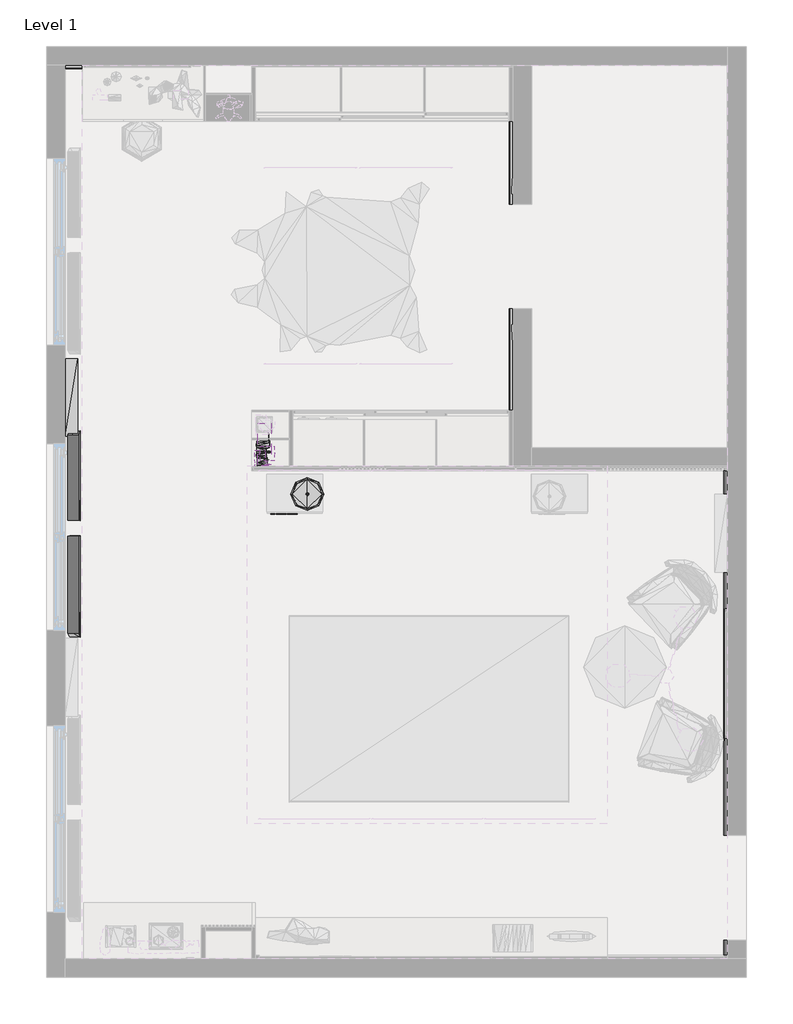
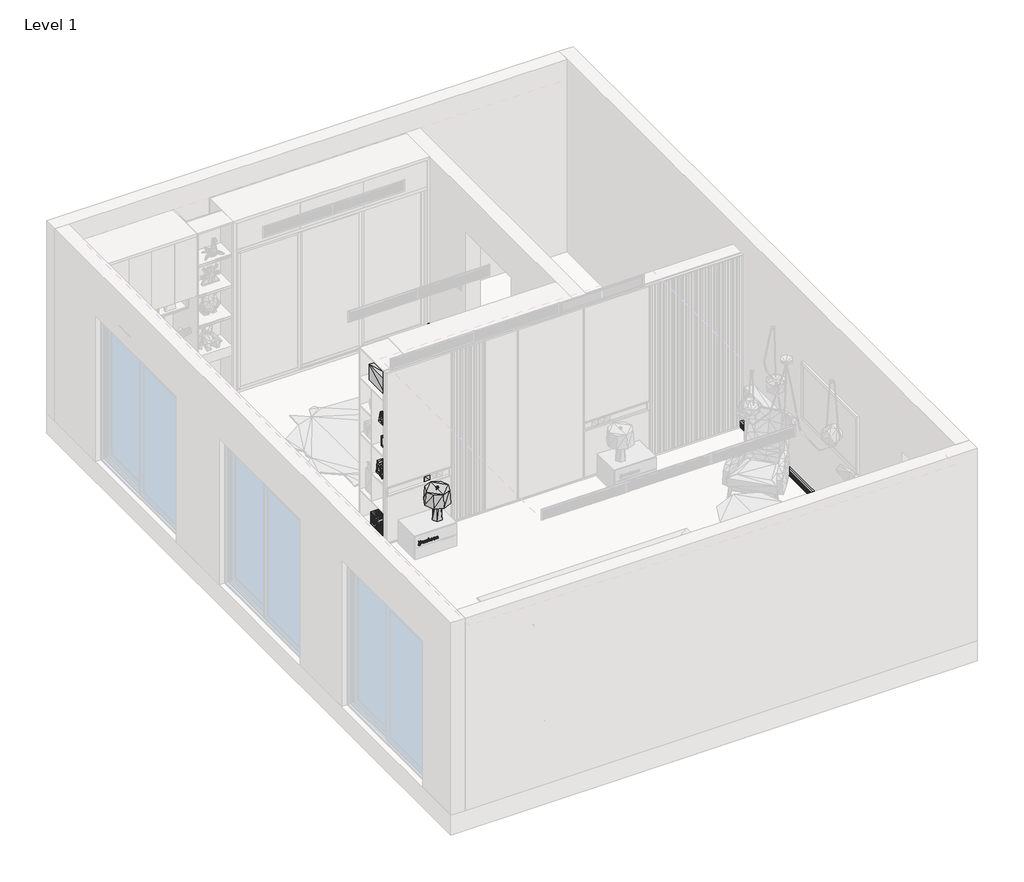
# One storey, part 2 of 3: 11 geographic elements, 2 proxies.
"""IFC4 building model written with IfcOpenShell, lengths in millimetres."""

from ifc_helpers import new_model, si_unit, frame, origin, place, context, project, spatial, polyline, circle_curve, ellipse_curve, outline, extrude, transform, mapped, element, save
from ifc_brep_helpers import plane_surface, cylinder_surface, revolved_surface, advanced_brep
from components import geographic_element_d3b9378c, enscape_assetdefinition_books_04_1_enscape_assetdefinition_30a1759c, enscape_assetdefinition_books_08_1_enscape_assetdefinition_19575203, enscape_assetdefinition_books_09_1_enscape_assetdefinition_7b06a2d0, enscape_assetdefinition_books_enscape_assetdefinition_books_90869a48, enscape_assetdefinition_curtain_09_1_enscape_assetdefinition_daeb34b5, enscape_assetdefinition_heater_1_enscape_assetdefinition_d009f5ff, enscape_assetdefinition_light_switch_02_1_enscape_37d4c2cf, enscape_assetdefinition_power_socket_1_enscape_57b8c8f3, enscape_assetdefinition_table_lamp_enscape_assetdefinition_93c3381e

model = new_model("IFC4")

# Units and contexts
model_context = context("Model", 3, world=origin())
ifc_project = project(units=[si_unit("LENGTHUNIT", "METRE", prefix="MILLI")], contexts=[model_context])

# Site, building, storey
site = spatial("IfcSite", under=ifc_project)
building = spatial("IfcBuilding", under=site)
storey = spatial("IfcBuildingStorey", under=building, Name="Level 1", Elevation=0.0)

# Proxies
placement = place(None, origin())
element("IfcBuildingElementProxy", 1, Name="600mm Arial", ObjectType="600mm Arial", at=placement, inside=storey, context=model_context, shape_type="SweptSolid", body=[
    extrude(outline(polyline([(223.461173, -2386.0412489), (256.5468074, -2386.0412489), (266.3688705, -2395.9534226), (261.5329312, -2402.4714277), (257.8684306, -2407.607736), (256.4717152, -2411.9931219), (261.3376914, -2414.4110916), (263.7706795, -2416.9041534), (265.0472473, -2419.4723075), (267.5703461, -2424.5935973), (262.9897203, -2420.02799), (260.7144259, -2418.8490421), (258.5592791, -2417.7602048), (245.2529367, -2417.9254077), (245.2529367, -2421.9803879), (242.594672, -2424.4884682), (236.4971833, -2424.4884682), (239.5459276, -2421.544853), (239.5459276, -2417.7602048), (221.7340518, -2417.7602048), (215.125936, -2427.7624892), (218.4299939, -2417.7602048), (199.3265318, -2417.7602048), (205.0335409, -2411.9931219), (253.7533766, -2411.9931219), (257.6731908, -2406.1509468), (207.5716581, -2405.0996556), (218.6252337, -2405.0996556), (218.6252337, -2401.0146386), (216.1922456, -2395.9834595), (221.1483324, -2390.8020959), (223.461173, -2386.0412489)]), holes=[polyline([(249.9837469, -2391.8083318), (247.8811646, -2396.1937177), (247.8811646, -2400.7142697), (249.9837469, -2405.0996556), (258.6644082, -2405.0996556), (260.7369536, -2402.2912064), (260.7369536, -2398.6717611), (254.0988009, -2391.8083318), (249.9837469, -2391.8083318)]), polyline([(236.7224599, -2391.8083318), (238.7349316, -2395.9233857), (238.7349316, -2400.9846017), (236.7224599, -2405.0996556), (249.3529722, -2405.0996556), (247.3855559, -2400.9846017), (247.3855559, -2395.9233857), (249.3529722, -2391.8083318), (236.7224599, -2391.8083318)]), polyline([(222.5150109, -2391.8083318), (223.6714312, -2395.3902309), (224.6626486, -2398.4464845), (224.6626486, -2405.2648585), (235.4158552, -2405.2648585), (237.5184375, -2400.8193988), (237.5184375, -2396.2537915), (235.4158552, -2391.8083318), (222.5150109, -2391.8083318)])]), frame((0.0, 1232.5768874, 0.0), z_axis=(0.0, 1.0, 0.0), x_axis=(0.0, 0.0, 1.0)), (0.0, 0.0, 1.0), 10.0),
    extrude(outline(polyline([(222.4399187, -2340.2950652), (222.4399187, -2343.7042522), (224.4373719, -2345.6716685), (242.459506, -2345.6716685), (244.9675863, -2343.1485698), (250.2690974, -2348.55521), (247.7309802, -2351.2435117), (246.4318847, -2353.7215551), (245.4181396, -2357.6864246), (247.7309802, -2362.1919581), (250.2690974, -2364.8502229), (244.9675863, -2370.2268262), (238.0591016, -2363.2582677), (235.6936965, -2365.6386912), (233.7488078, -2367.6286352), (231.2782736, -2368.8751662), (228.9729423, -2370.0315864), (224.0769292, -2370.0315864), (219.2259715, -2367.5685614), (216.6878542, -2362.3871979), (221.4487013, -2357.6263508), (223.5062283, -2351.4387514), (221.7340518, -2351.4387514), (216.6277805, -2346.1973141), (222.4399187, -2340.2950652)]), holes=[polyline([(224.5274826, -2351.4387514), (222.3347896, -2357.9417382), (222.3347896, -2360.0443205), (224.5274826, -2364.4597433), (228.8978501, -2366.6223994), (233.2081438, -2366.6223994), (237.3231977, -2362.5073454), (233.7938632, -2357.4911848), (242.1441186, -2365.9165325), (242.1441186, -2362.4472717), (243.1803913, -2359.2933982), (244.0965165, -2356.755281), (242.3093215, -2351.4387514), (224.5274826, -2351.4387514)])]), frame((0.0, 1232.5768874, 0.0), z_axis=(0.0, 1.0, 0.0), x_axis=(0.0, 0.0, 1.0)), (0.0, 0.0, 1.0), 10.0),
    extrude(outline(polyline([(245.4782134, -2298.0031239), (245.4782134, -2302.4335652), (247.4756666, -2306.3383609), (250.2690974, -2309.4321606), (247.7309802, -2312.0453701), (246.9199841, -2313.5321961), (245.4181396, -2316.4607929), (244.149081, -2319.9976367), (243.3606127, -2322.6033369), (245.1628261, -2322.6033369), (250.2690974, -2327.8447743), (244.4269223, -2333.7470232), (244.4269223, -2330.3528546), (242.459506, -2328.3704198), (224.5575194, -2328.3704198), (221.3886275, -2334.753259), (221.3886275, -2330.2927808), (219.3911744, -2326.2678375), (216.6277805, -2323.1289825), (222.1095129, -2317.542121), (224.6326117, -2322.6033369), (242.4745244, -2322.6033369), (244.6371805, -2316.29559), (244.6371805, -2314.2530815), (242.5345982, -2310.1079906), (221.7791071, -2310.1079906), (216.6277805, -2304.8965902), (222.4399187, -2298.9643044), (222.4399187, -2302.3734914), (224.4373719, -2304.3409077), (242.3393584, -2304.3409077), (245.4782134, -2298.0031239)])), frame((0.0, 1232.5768874, 0.0), z_axis=(0.0, 1.0, 0.0), x_axis=(0.0, 0.0, 1.0)), (0.0, 0.0, 1.0), 10.0),
    extrude(outline(polyline([(221.3435722, -2262.0489665), (245.2228998, -2262.0489665), (259.1600169, -2275.8959728), (266.6091656, -2278.3890347), (261.2475807, -2286.4088843), (249.7584703, -2274.9948661), (247.791054, -2278.8696249), (246.1840803, -2283.6454905), (245.4031212, -2286.0784786), (224.5274826, -2286.0784786), (221.3435722, -2292.4613177), (221.3435722, -2285.687999), (219.1058239, -2281.2725761), (216.6277805, -2278.8095512), (218.0470235, -2275.9410281), (219.1058239, -2273.8684827), (221.3435722, -2267.1101825), (221.3435722, -2262.0489665)]), holes=[polyline([(222.1996236, -2267.8160494), (220.0670044, -2273.943575), (222.2596974, -2276.0161204), (223.528756, -2278.4115624), (224.4674088, -2280.3113957), (244.7423096, -2280.3113957), (248.9775111, -2274.1237963), (242.5045613, -2267.8160494), (222.1996236, -2267.8160494)])]), frame((0.0, 1232.5768874, 0.0), z_axis=(0.0, 1.0, 0.0), x_axis=(0.0, 0.0, 1.0)), (0.0, 0.0, 1.0), 10.0),
    extrude(outline(polyline([(245.5232687, -2216.3027828), (245.5232687, -2223.0610831), (247.791054, -2227.4464691), (249.0450941, -2228.7155277), (250.2690974, -2229.9395309), (248.8198174, -2232.7930355), (247.791054, -2234.8505625), (245.5232687, -2241.6088627), (245.5232687, -2246.6700787), (224.5274826, -2246.6700787), (221.3435722, -2253.0529179), (221.3435722, -2246.2795992), (219.1058239, -2241.8641763), (216.6277805, -2239.4011513), (218.0470235, -2236.5326283), (219.1058239, -2234.4600829), (221.3435722, -2227.7017826), (221.3435722, -2222.6405666), (242.3693953, -2222.6405666), (245.5232687, -2216.3027828)]), holes=[polyline([(222.1996236, -2228.4076495), (220.0670044, -2234.5351751), (222.2596974, -2236.6077205), (223.528756, -2239.0031625), (224.4674088, -2240.9029958), (244.6071436, -2240.9029958), (244.5470698, -2232.7329617), (243.2780112, -2230.3375197), (242.3693953, -2228.4076495), (222.1996236, -2228.4076495)])]), frame((0.0, 1232.5768874, 0.0), z_axis=(0.0, 1.0, 0.0), x_axis=(0.0, 0.0, 1.0)), (0.0, 0.0, 1.0), 10.0),
    extrude(outline(polyline([(245.4782134, -2178.3061168), (245.4782134, -2182.7365581), (247.7309802, -2187.2120548), (248.9850203, -2188.4886226), (250.2090236, -2189.7051166), (245.6133794, -2199.0015341), (250.2690974, -2203.8524919), (244.4269223, -2209.7547408), (244.4269223, -2206.3605722), (242.459506, -2204.3781375), (224.5575194, -2204.3781375), (221.3886275, -2210.7609766), (221.3886275, -2206.3004984), (219.3911744, -2202.2755551), (216.6277805, -2199.1367001), (220.2922811, -2194.3007608), (222.4399187, -2189.9303933), (222.4399187, -2194.3608346), (224.5575194, -2198.6110546), (244.6071436, -2198.6110546), (246.6045968, -2194.6311666), (242.1140817, -2190.0655593), (242.1140817, -2185.0794356), (245.4782134, -2178.3061168)])), frame((0.0, 1232.5768874, 0.0), z_axis=(0.0, 1.0, 0.0), x_axis=(0.0, 0.0, 1.0)), (0.0, 0.0, 1.0), 10.0),
    extrude(outline(polyline([(222.4399187, -2144.2142466), (222.4399187, -2147.6234336), (224.4373719, -2149.5908499), (242.459506, -2149.5908499), (244.9675863, -2147.0677511), (250.2690974, -2152.4743913), (247.7309802, -2155.162693), (246.4318847, -2157.6407364), (245.4181396, -2161.6056059), (247.7309802, -2166.1111395), (250.2690974, -2168.7694042), (244.9675863, -2174.1460076), (238.0591016, -2167.1774491), (235.6936965, -2169.5578726), (233.7488078, -2171.5478166), (231.2782736, -2172.7943475), (228.9729423, -2173.9507678), (224.0769292, -2173.9507678), (219.2259715, -2171.4877428), (216.6878542, -2166.3063792), (221.4487013, -2161.5455322), (223.5062283, -2155.3579328), (221.7340518, -2155.3579328), (216.6277805, -2150.1164955), (222.4399187, -2144.2142466)]), holes=[polyline([(224.5274826, -2155.3579328), (222.3347896, -2161.8609195), (222.3347896, -2163.9635018), (224.5274826, -2168.3789247), (228.8978501, -2170.5415807), (233.2081438, -2170.5415807), (237.3231977, -2166.4265268), (233.7938632, -2161.4103661), (242.1441186, -2169.8357138), (242.1441186, -2166.366453), (243.1803913, -2163.2125796), (244.0965165, -2160.6744623), (242.3093215, -2155.3579328), (224.5274826, -2155.3579328)])]), frame((0.0, 1232.5768874, 0.0), z_axis=(0.0, 1.0, 0.0), x_axis=(0.0, 0.0, 1.0)), (0.0, 0.0, 1.0), 10.0),
])
element("IfcBuildingElementProxy", 2, Name="Cornice", ObjectType="Cornice", at=placement, inside=storey, context=model_context, shape_type="AdvancedBrep", body=[
    advanced_brep(
    [(2427.42874, 1698.5768874, 0.0), (2427.42874, 1698.5768874, 17.0568604), (2427.42874, 1698.5768874, 27.0568604), (2427.42874, 1698.5768874, 40.0), (2427.42874, 1698.5768874, 50.0), (2427.42874, 1698.5768874, 62.6870519), (2427.42874, 1698.5768874, 72.6870519), (2427.42874, 1698.5768874, 90.0), (2437.42874, 1698.5768874, 100.0), (2467.42874, 1698.5768874, 100.0), (2467.42874, 1698.5768874, 0.0), (2427.42874, -2213.4231126, 0.0), (2467.42874, -2213.4231126, 0.0), (2467.42874, -2213.4231126, 100.0), (2437.42874, -2213.4231126, 100.0), (2427.42874, -2213.4231126, 90.0), (2427.42874, -2213.4231126, 72.6870519), (2427.42874, -2213.4231126, 62.6870519), (2427.42874, -2213.4231126, 50.0), (2427.42874, -2213.4231126, 40.0), (2427.42874, -2213.4231126, 27.0568604), (2427.42874, -2213.4231126, 17.0568604)],
    [
        (0, 1),
        (1, 2, circle_curve(frame((2427.42874, 1698.5768874, 22.0568604), z_axis=(0.0, -1.0, 0.0), x_axis=(1.0, 0.0, 0.0)), 5.0)),
        (2, 3),
        (3, 4, circle_curve(frame((2427.42874, 1698.5768874, 45.0), z_axis=(0.0, -1.0, 0.0), x_axis=(1.0, 0.0, 0.0)), 5.0)),
        (4, 5),
        (5, 6, circle_curve(frame((2427.42874, 1698.5768874, 67.6870519), z_axis=(0.0, -1.0, 0.0), x_axis=(1.0, 0.0, 0.0)), 5.0)),
        (6, 7),
        (7, 8, circle_curve(frame((2437.42874, 1698.5768874, 90.0), z_axis=(0.0, 1.0, 0.0), x_axis=(1.0, 0.0, 0.0)), 10.0)),
        (8, 9),
        (9, 10),
        (10, 0),
        (11, 12),
        (12, 13),
        (13, 14),
        (14, 15, circle_curve(frame((2437.42874, -2213.4231126, 90.0), z_axis=(0.0, -1.0, 0.0), x_axis=(1.0, 0.0, 0.0)), 10.0)),
        (15, 16),
        (16, 17, circle_curve(frame((2427.42874, -2213.4231126, 67.6870519), z_axis=(0.0, 1.0, 0.0), x_axis=(1.0, 0.0, 0.0)), 5.0)),
        (17, 18),
        (18, 19, circle_curve(frame((2427.42874, -2213.4231126, 45.0), z_axis=(0.0, 1.0, 0.0), x_axis=(1.0, 0.0, 0.0)), 5.0)),
        (19, 20),
        (20, 21, circle_curve(frame((2427.42874, -2213.4231126, 22.0568604), z_axis=(0.0, 1.0, 0.0), x_axis=(1.0, 0.0, 0.0)), 5.0)),
        (21, 11),
        (0, 11),
        (21, 1),
        (20, 2),
        (19, 3),
        (18, 4),
        (17, 5),
        (16, 6),
        (15, 7),
        (14, 8),
        (13, 9),
        (12, 10),
    ],
    [
        plane_surface(frame((2363.0256749, 1698.5768874, 0.0), z_axis=(0.0, 1.0, 0.0), x_axis=(0.0, 0.0, -1.0))),
        plane_surface(frame((2363.0256749, -2213.4231126, 0.0), z_axis=(0.0, -1.0, 0.0), x_axis=(0.0, 0.0, -1.0))),
        plane_surface(frame((2427.42874, 1698.5768874, 0.0), z_axis=(-1.0, 0.0, 0.0), x_axis=(0.0, -1.0, 0.0))),
        revolved_surface(polyline([(2432.42874, -2213.4231126, 22.0568604), (2432.42874, 1698.5768874, 22.0568604)]), (2427.42874, 1698.5768874, 22.0568604), (0.0, -1.0, 0.0)),
        plane_surface(frame((2427.42874, 1698.5768874, 27.0568604), z_axis=(-1.0, 0.0, 0.0), x_axis=(0.0, -1.0, 0.0))),
        revolved_surface(polyline([(2432.42874, -2213.4231126, 45.0), (2432.42874, 1698.5768874, 45.0)]), (2427.42874, 1698.5768874, 45.0), (0.0, -1.0, 0.0)),
        plane_surface(frame((2427.42874, 1698.5768874, 50.0), z_axis=(-1.0, 0.0, 0.0), x_axis=(0.0, -1.0, 0.0))),
        revolved_surface(polyline([(2432.42874, -2213.4231126, 67.6870519), (2432.42874, 1698.5768874, 67.6870519)]), (2427.42874, 1698.5768874, 67.6870519), (0.0, -1.0, 0.0)),
        plane_surface(frame((2427.42874, 1698.5768874, 72.6870519), z_axis=(-1.0, 0.0, 0.0), x_axis=(0.0, -1.0, 0.0))),
        cylinder_surface(frame((2437.42874, 1698.5768874, 90.0), z_axis=(0.0, 1.0, 0.0), x_axis=(1.0, 0.0, 0.0)), 10.0),
        plane_surface(frame((2437.42874, 1698.5768874, 100.0), z_axis=(0.0, 0.0, 1.0), x_axis=(0.0, -1.0, 0.0))),
        plane_surface(frame((2467.42874, 1698.5768874, 100.0), z_axis=(1.0, 0.0, 0.0), x_axis=(0.0, -1.0, 0.0))),
        plane_surface(frame((2467.42874, 1698.5768874, 0.0), z_axis=(0.0, 0.0, -1.0), x_axis=(0.0, -1.0, 0.0))),
    ],
    [
        (0, [[1, 2, 3, 4, 5, 6, 7, 8, 9, 10, 11]]),
        (1, [[12, 13, 14, 15, 16, 17, 18, 19, 20, 21, 22]]),
        (2, [[-1, 23, -22, 24]]),
        (3, [[-2, -24, -21, 25]]),
        (4, [[-3, -25, -20, 26]]),
        (5, [[-4, -26, -19, 27]]),
        (6, [[-5, -27, -18, 28]]),
        (7, [[-6, -28, -17, 29]]),
        (8, [[-7, -29, -16, 30]]),
        (9, [[-8, -30, -15, 31]]),
        (10, [[-9, -31, -14, 32]]),
        (11, [[-10, -32, -13, 33]]),
        (12, [[-11, -33, -12, -23]]),
    ],
),
    advanced_brep(
    [(2427.42874, -3495.4231126, 0.0), (2427.42874, -3495.4231126, 17.0568604), (2427.42874, -3495.4231126, 27.0568604), (2427.42874, -3495.4231126, 40.0), (2427.42874, -3495.4231126, 50.0), (2427.42874, -3495.4231126, 62.6870519), (2427.42874, -3495.4231126, 72.6870519), (2427.42874, -3495.4231126, 90.0), (2437.42874, -3505.4231126, 100.0), (2467.42874, -3535.4231126, 100.0), (2467.42874, -3535.4231126, 0.0), (-2592.57126, -3495.4231126, 0.0), (-2592.57126, -3535.4231126, 0.0), (-2592.57126, -3535.4231126, 100.0), (-2592.57126, -3505.4231126, 100.0), (-2592.57126, -3495.4231126, 90.0), (-2592.57126, -3495.4231126, 72.6870519), (-2592.57126, -3495.4231126, 62.6870519), (-2592.57126, -3495.4231126, 50.0), (-2592.57126, -3495.4231126, 40.0), (-2592.57126, -3495.4231126, 27.0568604), (-2592.57126, -3495.4231126, 17.0568604)],
    [
        (0, 1),
        (1, 2, ellipse_curve(frame((2427.42874, -3495.4231126, 22.0568604), z_axis=(-0.7071067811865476, -0.7071067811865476, 0.0), x_axis=(-0.7071067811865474, 0.7071067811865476, 0.0)), 7.0710678, 5.0)),
        (2, 3),
        (3, 4, ellipse_curve(frame((2427.42874, -3495.4231126, 45.0), z_axis=(-0.7071067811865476, -0.7071067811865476, 0.0), x_axis=(-0.7071067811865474, 0.7071067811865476, 0.0)), 7.0710678, 5.0)),
        (4, 5),
        (5, 6, ellipse_curve(frame((2427.42874, -3495.4231126, 67.6870519), z_axis=(-0.7071067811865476, -0.7071067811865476, 0.0), x_axis=(-0.7071067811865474, 0.7071067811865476, 0.0)), 7.0710678, 5.0)),
        (6, 7),
        (7, 8, ellipse_curve(frame((2437.42874, -3505.4231126, 90.0), z_axis=(0.7071067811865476, 0.7071067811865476, 0.0), x_axis=(0.7071067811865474, -0.7071067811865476, 0.0)), 14.1421356, 10.0)),
        (8, 9),
        (9, 10),
        (10, 0),
        (11, 12),
        (12, 13),
        (13, 14),
        (14, 15, circle_curve(frame((-2592.57126, -3505.4231126, 90.0), z_axis=(-1.0, 0.0, 0.0), x_axis=(0.0, -1.0, 0.0)), 10.0)),
        (15, 16),
        (16, 17, circle_curve(frame((-2592.57126, -3495.4231126, 67.6870519), z_axis=(1.0, 0.0, 0.0), x_axis=(0.0, -1.0, 0.0)), 5.0)),
        (17, 18),
        (18, 19, circle_curve(frame((-2592.57126, -3495.4231126, 45.0), z_axis=(1.0, 0.0, 0.0), x_axis=(0.0, -1.0, 0.0)), 5.0)),
        (19, 20),
        (20, 21, circle_curve(frame((-2592.57126, -3495.4231126, 22.0568604), z_axis=(1.0, 0.0, 0.0), x_axis=(0.0, -1.0, 0.0)), 5.0)),
        (21, 11),
        (0, 11),
        (21, 1),
        (20, 2),
        (19, 3),
        (18, 4),
        (17, 5),
        (16, 6),
        (15, 7),
        (14, 8),
        (13, 9),
        (12, 10),
    ],
    [
        plane_surface(frame((2467.42874, -3535.4231126, 304.8), z_axis=(0.7071067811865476, 0.7071067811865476, 0.0), x_axis=(-0.7071067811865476, 0.7071067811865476, 0.0))),
        plane_surface(frame((-2592.57126, -3535.4231126, -104.4030651), z_axis=(-1.0, 0.0, 0.0), x_axis=(0.0, -1.0, 0.0))),
        plane_surface(frame((2427.42874, -3495.4231126, 0.0), z_axis=(0.0, 1.0, 0.0), x_axis=(-1.0, 0.0, 0.0))),
        revolved_surface(polyline([(-2592.57126, -3500.4231126, 22.0568604), (2432.4287399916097, -3500.4231126, 22.0568604)]), (2467.42874, -3495.4231126, 22.0568604), (-1.0, 0.0, 0.0)),
        plane_surface(frame((2427.42874, -3495.4231126, 27.0568604), z_axis=(0.0, 1.0, 0.0), x_axis=(-1.0, 0.0, 0.0))),
        revolved_surface(polyline([(-2592.57126, -3500.4231126, 45.0), (2432.4287399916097, -3500.4231126, 45.0)]), (2467.42874, -3495.4231126, 45.0), (-1.0, 0.0, 0.0)),
        plane_surface(frame((2427.42874, -3495.4231126, 50.0), z_axis=(0.0, 1.0, 0.0), x_axis=(-1.0, 0.0, 0.0))),
        revolved_surface(polyline([(-2592.57126, -3500.4231126, 67.6870519), (2432.4287399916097, -3500.4231126, 67.6870519)]), (2467.42874, -3495.4231126, 67.6870519), (-1.0, 0.0, 0.0)),
        plane_surface(frame((2427.42874, -3495.4231126, 72.6870519), z_axis=(0.0, 1.0, 0.0), x_axis=(-1.0, 0.0, 0.0))),
        cylinder_surface(frame((2467.42874, -3505.4231126, 90.0), z_axis=(1.0, 0.0, 0.0), x_axis=(0.0, -1.0, 0.0)), 10.0),
        plane_surface(frame((2437.42874, -3505.4231126, 100.0), z_axis=(0.0, 0.0, 1.0), x_axis=(-1.0, 0.0, 0.0))),
        plane_surface(frame((2467.42874, -3535.4231126, 100.0), z_axis=(0.0, -1.0, 0.0), x_axis=(-1.0, 0.0, 0.0))),
        plane_surface(frame((2467.42874, -3535.4231126, 0.0), z_axis=(0.0, 0.0, -1.0), x_axis=(-1.0, 0.0, 0.0))),
    ],
    [
        (0, [[1, 2, 3, 4, 5, 6, 7, 8, 9, 10, 11]]),
        (1, [[12, 13, 14, 15, 16, 17, 18, 19, 20, 21, 22]]),
        (2, [[-1, 23, -22, 24]]),
        (3, [[-2, -24, -21, 25]]),
        (4, [[-3, -25, -20, 26]]),
        (5, [[-4, -26, -19, 27]]),
        (6, [[-5, -27, -18, 28]]),
        (7, [[-6, -28, -17, 29]]),
        (8, [[-7, -29, -16, 30]]),
        (9, [[-8, -30, -15, 31]]),
        (10, [[-9, -31, -14, 32]]),
        (11, [[-10, -32, -13, 33]]),
        (12, [[-11, -33, -12, -23]]),
    ],
),
    advanced_brep(
    [(-4632.57126, 6004.5768874, 0.0), (-4632.57126, 6004.5768874, 17.0568604), (-4632.57126, 6004.5768874, 27.0568604), (-4632.57126, 6004.5768874, 40.0), (-4632.57126, 6004.5768874, 50.0), (-4632.57126, 6004.5768874, 62.6870519), (-4632.57126, 6004.5768874, 72.6870519), (-4632.57126, 6004.5768874, 90.0), (-4632.57126, 6014.5768874, 100.0), (-4632.57126, 6044.5768874, 100.0), (-4632.57126, 6044.5768874, 0.0), (-3148.57126, 6004.5768874, 0.0), (-3148.57126, 6044.5768874, 0.0), (-3148.57126, 6044.5768874, 100.0), (-3148.57126, 6014.5768874, 100.0), (-3148.57126, 6004.5768874, 90.0), (-3148.57126, 6004.5768874, 72.6870519), (-3148.57126, 6004.5768874, 62.6870519), (-3148.57126, 6004.5768874, 50.0), (-3148.57126, 6004.5768874, 40.0), (-3148.57126, 6004.5768874, 27.0568604), (-3148.57126, 6004.5768874, 17.0568604)],
    [
        (0, 1),
        (1, 2, circle_curve(frame((-4632.57126, 6004.5768874, 22.0568604), z_axis=(1.0, 0.0, 0.0), x_axis=(0.0, 1.0, 0.0)), 5.0)),
        (2, 3),
        (3, 4, circle_curve(frame((-4632.57126, 6004.5768874, 45.0), z_axis=(1.0, 0.0, 0.0), x_axis=(0.0, 1.0, 0.0)), 5.0)),
        (4, 5),
        (5, 6, circle_curve(frame((-4632.57126, 6004.5768874, 67.6870519), z_axis=(1.0, 0.0, 0.0), x_axis=(0.0, 1.0, 0.0)), 5.0)),
        (6, 7),
        (7, 8, circle_curve(frame((-4632.57126, 6014.5768874, 90.0), z_axis=(-1.0, 0.0, 0.0), x_axis=(0.0, 1.0, 0.0)), 10.0)),
        (8, 9),
        (9, 10),
        (10, 0),
        (11, 12),
        (12, 13),
        (13, 14),
        (14, 15, circle_curve(frame((-3148.57126, 6014.5768874, 90.0), z_axis=(1.0, 0.0, 0.0), x_axis=(0.0, 1.0, 0.0)), 10.0)),
        (15, 16),
        (16, 17, circle_curve(frame((-3148.57126, 6004.5768874, 67.6870519), z_axis=(-1.0, 0.0, 0.0), x_axis=(0.0, 1.0, 0.0)), 5.0)),
        (17, 18),
        (18, 19, circle_curve(frame((-3148.57126, 6004.5768874, 45.0), z_axis=(-1.0, 0.0, 0.0), x_axis=(0.0, 1.0, 0.0)), 5.0)),
        (19, 20),
        (20, 21, circle_curve(frame((-3148.57126, 6004.5768874, 22.0568604), z_axis=(-1.0, 0.0, 0.0), x_axis=(0.0, 1.0, 0.0)), 5.0)),
        (21, 11),
        (0, 11),
        (21, 1),
        (20, 2),
        (19, 3),
        (18, 4),
        (17, 5),
        (16, 6),
        (15, 7),
        (14, 8),
        (13, 9),
        (12, 10),
    ],
    [
        plane_surface(frame((-4632.57126, 6044.5768874, -104.4030651), z_axis=(-1.0, 0.0, 0.0), x_axis=(0.0, 1.0, 0.0))),
        plane_surface(frame((-3148.57126, 6044.5768874, -104.4030651), z_axis=(1.0, 0.0, 0.0), x_axis=(0.0, 1.0, 0.0))),
        plane_surface(frame((-4632.57126, 6004.5768874, 0.0), z_axis=(0.0, -1.0, 0.0), x_axis=(1.0, 0.0, 0.0))),
        revolved_surface(polyline([(-3148.57126, 6009.5768874, 22.0568604), (-4632.57126, 6009.5768874, 22.0568604)]), (-4632.57126, 6004.5768874, 22.0568604), (1.0, 0.0, 0.0)),
        plane_surface(frame((-4632.57126, 6004.5768874, 27.0568604), z_axis=(0.0, -1.0, 0.0), x_axis=(1.0, 0.0, 0.0))),
        revolved_surface(polyline([(-3148.57126, 6009.5768874, 45.0), (-4632.57126, 6009.5768874, 45.0)]), (-4632.57126, 6004.5768874, 45.0), (1.0, 0.0, 0.0)),
        plane_surface(frame((-4632.57126, 6004.5768874, 50.0), z_axis=(0.0, -1.0, 0.0), x_axis=(1.0, 0.0, 0.0))),
        revolved_surface(polyline([(-3148.57126, 6009.5768874, 67.6870519), (-4632.57126, 6009.5768874, 67.6870519)]), (-4632.57126, 6004.5768874, 67.6870519), (1.0, 0.0, 0.0)),
        plane_surface(frame((-4632.57126, 6004.5768874, 72.6870519), z_axis=(0.0, -1.0, 0.0), x_axis=(1.0, 0.0, 0.0))),
        cylinder_surface(frame((-4632.57126, 6014.5768874, 90.0), z_axis=(-1.0, 0.0, 0.0), x_axis=(0.0, 1.0, 0.0)), 10.0),
        plane_surface(frame((-4632.57126, 6014.5768874, 100.0), z_axis=(0.0, 0.0, 1.0), x_axis=(1.0, 0.0, 0.0))),
        plane_surface(frame((-4632.57126, 6044.5768874, 100.0), z_axis=(0.0, 1.0, 0.0), x_axis=(1.0, 0.0, 0.0))),
        plane_surface(frame((-4632.57126, 6044.5768874, 0.0), z_axis=(0.0, 0.0, -1.0), x_axis=(1.0, 0.0, 0.0))),
    ],
    [
        (0, [[1, 2, 3, 4, 5, 6, 7, 8, 9, 10, 11]]),
        (1, [[12, 13, 14, 15, 16, 17, 18, 19, 20, 21, 22]]),
        (2, [[-1, 23, -22, 24]]),
        (3, [[-2, -24, -21, 25]]),
        (4, [[-3, -25, -20, 26]]),
        (5, [[-4, -26, -19, 27]]),
        (6, [[-5, -27, -18, 28]]),
        (7, [[-6, -28, -17, 29]]),
        (8, [[-7, -29, -16, 30]]),
        (9, [[-8, -30, -15, 31]]),
        (10, [[-9, -31, -14, 32]]),
        (11, [[-10, -32, -13, 33]]),
        (12, [[-11, -33, -12, -23]]),
    ],
),
    advanced_brep(
    [(127.42874, 4555.5768874, 0.0), (167.42874, 4555.5768874, 0.0), (167.42874, 4555.5768874, 100.0), (137.42874, 4555.5768874, 100.0), (127.42874, 4555.5768874, 90.0), (127.42874, 4555.5768874, 72.6870519), (127.42874, 4555.5768874, 62.6870519), (127.42874, 4555.5768874, 50.0), (127.42874, 4555.5768874, 40.0), (127.42874, 4555.5768874, 27.0568604), (127.42874, 4555.5768874, 17.0568604), (127.42874, 5444.5768874, 0.0), (127.42874, 5444.5768874, 17.0568604), (127.42874, 5444.5768874, 27.0568604), (127.42874, 5444.5768874, 40.0), (127.42874, 5444.5768874, 50.0), (127.42874, 5444.5768874, 62.6870519), (127.42874, 5444.5768874, 72.6870519), (127.42874, 5444.5768874, 90.0), (137.42874, 5444.5768874, 100.0), (167.42874, 5444.5768874, 100.0), (167.42874, 5444.5768874, 0.0)],
    [
        (0, 1),
        (1, 2),
        (2, 3),
        (3, 4, circle_curve(frame((137.42874, 4555.5768874, 90.0), z_axis=(0.0, -1.0, 0.0), x_axis=(1.0, 0.0, 0.0)), 10.0)),
        (4, 5),
        (5, 6, circle_curve(frame((127.42874, 4555.5768874, 67.6870519), z_axis=(0.0, 1.0, 0.0), x_axis=(1.0, 0.0, 0.0)), 5.0)),
        (6, 7),
        (7, 8, circle_curve(frame((127.42874, 4555.5768874, 45.0), z_axis=(0.0, 1.0, 0.0), x_axis=(1.0, 0.0, 0.0)), 5.0)),
        (8, 9),
        (9, 10, circle_curve(frame((127.42874, 4555.5768874, 22.0568604), z_axis=(0.0, 1.0, 0.0), x_axis=(1.0, 0.0, 0.0)), 5.0)),
        (10, 0),
        (11, 12),
        (12, 13, circle_curve(frame((127.42874, 5444.5768874, 22.0568604), z_axis=(0.0, -1.0, 0.0), x_axis=(1.0, 0.0, 0.0)), 5.0)),
        (13, 14),
        (14, 15, circle_curve(frame((127.42874, 5444.5768874, 45.0), z_axis=(0.0, -1.0, 0.0), x_axis=(1.0, 0.0, 0.0)), 5.0)),
        (15, 16),
        (16, 17, circle_curve(frame((127.42874, 5444.5768874, 67.6870519), z_axis=(0.0, -1.0, 0.0), x_axis=(1.0, 0.0, 0.0)), 5.0)),
        (17, 18),
        (18, 19, circle_curve(frame((137.42874, 5444.5768874, 90.0), z_axis=(0.0, 1.0, 0.0), x_axis=(1.0, 0.0, 0.0)), 10.0)),
        (19, 20),
        (20, 21),
        (21, 11),
        (0, 11),
        (21, 1),
        (20, 2),
        (19, 3),
        (18, 4),
        (17, 5),
        (16, 6),
        (15, 7),
        (14, 8),
        (13, 9),
        (12, 10),
    ],
    [
        plane_surface(frame((63.0256749, 4555.5768874, 0.0), z_axis=(0.0, -1.0, 0.0), x_axis=(0.0, 0.0, 1.0))),
        plane_surface(frame((63.0256749, 5444.5768874, 0.0), z_axis=(0.0, 1.0, 0.0), x_axis=(0.0, 0.0, 1.0))),
        plane_surface(frame((127.42874, 4555.5768874, 0.0), z_axis=(0.0, 0.0, -1.0), x_axis=(0.0, 1.0, 0.0))),
        plane_surface(frame((167.42874, 4555.5768874, 0.0), z_axis=(1.0, 0.0, 0.0), x_axis=(0.0, 1.0, 0.0))),
        plane_surface(frame((167.42874, 4555.5768874, 100.0), z_axis=(0.0, 0.0, 1.0), x_axis=(0.0, 1.0, 0.0))),
        cylinder_surface(frame((137.42874, 4555.5768874, 90.0), z_axis=(0.0, -1.0, 0.0), x_axis=(1.0, 0.0, 0.0)), 10.0),
        plane_surface(frame((127.42874, 4555.5768874, 90.0), z_axis=(-1.0, 0.0, 0.0), x_axis=(0.0, 1.0, 0.0))),
        revolved_surface(polyline([(132.42874, 5444.5768874, 67.6870519), (132.42874, 4555.5768874, 67.6870519)]), (127.42874, 4555.5768874, 67.6870519), (0.0, 1.0, 0.0)),
        plane_surface(frame((127.42874, 4555.5768874, 62.6870519), z_axis=(-1.0, 0.0, 0.0), x_axis=(0.0, 1.0, 0.0))),
        revolved_surface(polyline([(132.42874, 5444.5768874, 45.0), (132.42874, 4555.5768874, 45.0)]), (127.42874, 4555.5768874, 45.0), (0.0, 1.0, 0.0)),
        plane_surface(frame((127.42874, 4555.5768874, 40.0), z_axis=(-1.0, 0.0, 0.0), x_axis=(0.0, 1.0, 0.0))),
        revolved_surface(polyline([(132.42874, 5444.5768874, 22.0568604), (132.42874, 4555.5768874, 22.0568604)]), (127.42874, 4555.5768874, 22.0568604), (0.0, 1.0, 0.0)),
        plane_surface(frame((127.42874, 4555.5768874, 17.0568604), z_axis=(-1.0, 0.0, 0.0), x_axis=(0.0, 1.0, 0.0))),
    ],
    [
        (0, [[1, 2, 3, 4, 5, 6, 7, 8, 9, 10, 11]]),
        (1, [[12, 13, 14, 15, 16, 17, 18, 19, 20, 21, 22]]),
        (2, [[-1, 23, -22, 24]]),
        (3, [[-2, -24, -21, 25]]),
        (4, [[-3, -25, -20, 26]]),
        (5, [[-4, -26, -19, 27]]),
        (6, [[-5, -27, -18, 28]]),
        (7, [[-6, -28, -17, 29]]),
        (8, [[-7, -29, -16, 30]]),
        (9, [[-8, -30, -15, 31]]),
        (10, [[-9, -31, -14, 32]]),
        (11, [[-10, -32, -13, 33]]),
        (12, [[-11, -33, -12, -23]]),
    ],
),
    advanced_brep(
    [(2427.42874, -3335.4231126, 0.0), (2427.42874, -3335.4231126, 17.0568604), (2427.42874, -3335.4231126, 27.0568604), (2427.42874, -3335.4231126, 40.0), (2427.42874, -3335.4231126, 50.0), (2427.42874, -3335.4231126, 62.6870519), (2427.42874, -3335.4231126, 72.6870519), (2427.42874, -3335.4231126, 90.0), (2437.42874, -3335.4231126, 100.0), (2467.42874, -3335.4231126, 100.0), (2467.42874, -3335.4231126, 0.0), (2427.42874, -3495.4231126, 0.0), (2467.42874, -3535.4231126, 0.0), (2467.42874, -3535.4231126, 100.0), (2437.42874, -3505.4231126, 100.0), (2427.42874, -3495.4231126, 90.0), (2427.42874, -3495.4231126, 72.6870519), (2427.42874, -3495.4231126, 62.6870519), (2427.42874, -3495.4231126, 50.0), (2427.42874, -3495.4231126, 40.0), (2427.42874, -3495.4231126, 27.0568604), (2427.42874, -3495.4231126, 17.0568604)],
    [
        (0, 1),
        (1, 2, circle_curve(frame((2427.42874, -3335.4231126, 22.0568604), z_axis=(0.0, -1.0, 0.0), x_axis=(1.0, 0.0, 0.0)), 5.0)),
        (2, 3),
        (3, 4, circle_curve(frame((2427.42874, -3335.4231126, 45.0), z_axis=(0.0, -1.0, 0.0), x_axis=(1.0, 0.0, 0.0)), 5.0)),
        (4, 5),
        (5, 6, circle_curve(frame((2427.42874, -3335.4231126, 67.6870519), z_axis=(0.0, -1.0, 0.0), x_axis=(1.0, 0.0, 0.0)), 5.0)),
        (6, 7),
        (7, 8, circle_curve(frame((2437.42874, -3335.4231126, 90.0), z_axis=(0.0, 1.0, 0.0), x_axis=(1.0, 0.0, 0.0)), 10.0)),
        (8, 9),
        (9, 10),
        (10, 0),
        (11, 12),
        (12, 13),
        (13, 14),
        (14, 15, ellipse_curve(frame((2437.42874, -3505.4231126, 90.0), z_axis=(-0.7071067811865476, -0.7071067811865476, 0.0), x_axis=(-0.7071067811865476, 0.7071067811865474, 0.0)), 14.1421356, 10.0)),
        (15, 16),
        (16, 17, ellipse_curve(frame((2427.42874, -3495.4231126, 67.6870519), z_axis=(0.7071067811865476, 0.7071067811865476, 0.0), x_axis=(0.7071067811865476, -0.7071067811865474, 0.0)), 7.0710678, 5.0)),
        (17, 18),
        (18, 19, ellipse_curve(frame((2427.42874, -3495.4231126, 45.0), z_axis=(0.7071067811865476, 0.7071067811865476, 0.0), x_axis=(0.7071067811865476, -0.7071067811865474, 0.0)), 7.0710678, 5.0)),
        (19, 20),
        (20, 21, ellipse_curve(frame((2427.42874, -3495.4231126, 22.0568604), z_axis=(0.7071067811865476, 0.7071067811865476, 0.0), x_axis=(0.7071067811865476, -0.7071067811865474, 0.0)), 7.0710678, 5.0)),
        (21, 11),
        (0, 11),
        (21, 1),
        (20, 2),
        (19, 3),
        (18, 4),
        (17, 5),
        (16, 6),
        (15, 7),
        (14, 8),
        (13, 9),
        (12, 10),
    ],
    [
        plane_surface(frame((2363.0256749, -3335.4231126, 0.0), z_axis=(0.0, 1.0, 0.0), x_axis=(0.0, 0.0, -1.0))),
        plane_surface(frame((2467.42874, -3535.4231126, 304.8), z_axis=(-0.7071067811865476, -0.7071067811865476, 0.0), x_axis=(-0.7071067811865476, 0.7071067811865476, 0.0))),
        plane_surface(frame((2427.42874, -3335.4231126, 0.0), z_axis=(-1.0, 0.0, 0.0), x_axis=(0.0, -1.0, 0.0))),
        revolved_surface(polyline([(2432.42874, -3500.42311259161, 22.0568604), (2432.42874, -3335.4231126, 22.0568604)]), (2427.42874, -3335.4231126, 22.0568604), (0.0, -1.0, 0.0)),
        plane_surface(frame((2427.42874, -3335.4231126, 27.0568604), z_axis=(-1.0, 0.0, 0.0), x_axis=(0.0, -1.0, 0.0))),
        revolved_surface(polyline([(2432.42874, -3500.42311259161, 45.0), (2432.42874, -3335.4231126, 45.0)]), (2427.42874, -3335.4231126, 45.0), (0.0, -1.0, 0.0)),
        plane_surface(frame((2427.42874, -3335.4231126, 50.0), z_axis=(-1.0, 0.0, 0.0), x_axis=(0.0, -1.0, 0.0))),
        revolved_surface(polyline([(2432.42874, -3500.42311259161, 67.6870519), (2432.42874, -3335.4231126, 67.6870519)]), (2427.42874, -3335.4231126, 67.6870519), (0.0, -1.0, 0.0)),
        plane_surface(frame((2427.42874, -3335.4231126, 72.6870519), z_axis=(-1.0, 0.0, 0.0), x_axis=(0.0, -1.0, 0.0))),
        cylinder_surface(frame((2437.42874, -3335.4231126, 90.0), z_axis=(0.0, 1.0, 0.0), x_axis=(1.0, 0.0, 0.0)), 10.0),
        plane_surface(frame((2437.42874, -3335.4231126, 100.0), z_axis=(0.0, 0.0, 1.0), x_axis=(0.0, -1.0, 0.0))),
        plane_surface(frame((2467.42874, -3335.4231126, 100.0), z_axis=(1.0, 0.0, 0.0), x_axis=(0.0, -1.0, 0.0))),
        plane_surface(frame((2467.42874, -3335.4231126, 0.0), z_axis=(0.0, 0.0, -1.0), x_axis=(0.0, -1.0, 0.0))),
    ],
    [
        (0, [[1, 2, 3, 4, 5, 6, 7, 8, 9, 10, 11]]),
        (1, [[12, 13, 14, 15, 16, 17, 18, 19, 20, 21, 22]]),
        (2, [[-1, 23, -22, 24]]),
        (3, [[-2, -24, -21, 25]]),
        (4, [[-3, -25, -20, 26]]),
        (5, [[-4, -26, -19, 27]]),
        (6, [[-5, -27, -18, 28]]),
        (7, [[-6, -28, -17, 29]]),
        (8, [[-7, -29, -16, 30]]),
        (9, [[-8, -30, -15, 31]]),
        (10, [[-9, -31, -14, 32]]),
        (11, [[-10, -32, -13, 33]]),
        (12, [[-11, -33, -12, -23]]),
    ],
),
    advanced_brep(
    [(127.42874, 2344.5768874, 0.0), (167.42874, 2344.5768874, 0.0), (167.42874, 2344.5768874, 100.0), (137.42874, 2344.5768874, 100.0), (127.42874, 2344.5768874, 90.0), (127.42874, 2344.5768874, 72.6870519), (127.42874, 2344.5768874, 62.6870519), (127.42874, 2344.5768874, 50.0), (127.42874, 2344.5768874, 40.0), (127.42874, 2344.5768874, 27.0568604), (127.42874, 2344.5768874, 17.0568604), (127.42874, 3433.5768874, 0.0), (127.42874, 3433.5768874, 17.0568604), (127.42874, 3433.5768874, 27.0568604), (127.42874, 3433.5768874, 40.0), (127.42874, 3433.5768874, 50.0), (127.42874, 3433.5768874, 62.6870519), (127.42874, 3433.5768874, 72.6870519), (127.42874, 3433.5768874, 90.0), (137.42874, 3433.5768874, 100.0), (167.42874, 3433.5768874, 100.0), (167.42874, 3433.5768874, 0.0)],
    [
        (0, 1),
        (1, 2),
        (2, 3),
        (3, 4, circle_curve(frame((137.42874, 2344.5768874, 90.0), z_axis=(0.0, -1.0, 0.0), x_axis=(1.0, 0.0, 0.0)), 10.0)),
        (4, 5),
        (5, 6, circle_curve(frame((127.42874, 2344.5768874, 67.6870519), z_axis=(0.0, 1.0, 0.0), x_axis=(1.0, 0.0, 0.0)), 5.0)),
        (6, 7),
        (7, 8, circle_curve(frame((127.42874, 2344.5768874, 45.0), z_axis=(0.0, 1.0, 0.0), x_axis=(1.0, 0.0, 0.0)), 5.0)),
        (8, 9),
        (9, 10, circle_curve(frame((127.42874, 2344.5768874, 22.0568604), z_axis=(0.0, 1.0, 0.0), x_axis=(1.0, 0.0, 0.0)), 5.0)),
        (10, 0),
        (11, 12),
        (12, 13, circle_curve(frame((127.42874, 3433.5768874, 22.0568604), z_axis=(0.0, -1.0, 0.0), x_axis=(1.0, 0.0, 0.0)), 5.0)),
        (13, 14),
        (14, 15, circle_curve(frame((127.42874, 3433.5768874, 45.0), z_axis=(0.0, -1.0, 0.0), x_axis=(1.0, 0.0, 0.0)), 5.0)),
        (15, 16),
        (16, 17, circle_curve(frame((127.42874, 3433.5768874, 67.6870519), z_axis=(0.0, -1.0, 0.0), x_axis=(1.0, 0.0, 0.0)), 5.0)),
        (17, 18),
        (18, 19, circle_curve(frame((137.42874, 3433.5768874, 90.0), z_axis=(0.0, 1.0, 0.0), x_axis=(1.0, 0.0, 0.0)), 10.0)),
        (19, 20),
        (20, 21),
        (21, 11),
        (0, 11),
        (21, 1),
        (20, 2),
        (19, 3),
        (18, 4),
        (17, 5),
        (16, 6),
        (15, 7),
        (14, 8),
        (13, 9),
        (12, 10),
    ],
    [
        plane_surface(frame((63.0256749, 2344.5768874, 0.0), z_axis=(0.0, -1.0, 0.0), x_axis=(0.0, 0.0, 1.0))),
        plane_surface(frame((63.0256749, 3433.5768874, 0.0), z_axis=(0.0, 1.0, 0.0), x_axis=(0.0, 0.0, 1.0))),
        plane_surface(frame((127.42874, 2344.5768874, 0.0), z_axis=(0.0, 0.0, -1.0), x_axis=(0.0, 1.0, 0.0))),
        plane_surface(frame((167.42874, 2344.5768874, 0.0), z_axis=(1.0, 0.0, 0.0), x_axis=(0.0, 1.0, 0.0))),
        plane_surface(frame((167.42874, 2344.5768874, 100.0), z_axis=(0.0, 0.0, 1.0), x_axis=(0.0, 1.0, 0.0))),
        cylinder_surface(frame((137.42874, 2344.5768874, 90.0), z_axis=(0.0, -1.0, 0.0), x_axis=(1.0, 0.0, 0.0)), 10.0),
        plane_surface(frame((127.42874, 2344.5768874, 90.0), z_axis=(-1.0, 0.0, 0.0), x_axis=(0.0, 1.0, 0.0))),
        revolved_surface(polyline([(132.42874, 3433.5768874, 67.6870519), (132.42874, 2344.5768874, 67.6870519)]), (127.42874, 2344.5768874, 67.6870519), (0.0, 1.0, 0.0)),
        plane_surface(frame((127.42874, 2344.5768874, 62.6870519), z_axis=(-1.0, 0.0, 0.0), x_axis=(0.0, 1.0, 0.0))),
        revolved_surface(polyline([(132.42874, 3433.5768874, 45.0), (132.42874, 2344.5768874, 45.0)]), (127.42874, 2344.5768874, 45.0), (0.0, 1.0, 0.0)),
        plane_surface(frame((127.42874, 2344.5768874, 40.0), z_axis=(-1.0, 0.0, 0.0), x_axis=(0.0, 1.0, 0.0))),
        revolved_surface(polyline([(132.42874, 3433.5768874, 22.0568604), (132.42874, 2344.5768874, 22.0568604)]), (127.42874, 2344.5768874, 22.0568604), (0.0, 1.0, 0.0)),
        plane_surface(frame((127.42874, 2344.5768874, 17.0568604), z_axis=(-1.0, 0.0, 0.0), x_axis=(0.0, 1.0, 0.0))),
    ],
    [
        (0, [[1, 2, 3, 4, 5, 6, 7, 8, 9, 10, 11]]),
        (1, [[12, 13, 14, 15, 16, 17, 18, 19, 20, 21, 22]]),
        (2, [[-1, 23, -22, 24]]),
        (3, [[-2, -24, -21, 25]]),
        (4, [[-3, -25, -20, 26]]),
        (5, [[-4, -26, -19, 27]]),
        (6, [[-5, -27, -18, 28]]),
        (7, [[-6, -28, -17, 29]]),
        (8, [[-7, -29, -16, 30]]),
        (9, [[-8, -30, -15, 31]]),
        (10, [[-9, -31, -14, 32]]),
        (11, [[-10, -32, -13, 33]]),
        (12, [[-11, -33, -12, -23]]),
    ],
),
])

# Geographic elements
geographic_element_shape = geographic_element_d3b9378c(model_context)
element("IfcGeographicElement", 3, ObjectType="Enscape AssetDefinition - Candle Holder 1 : Enscape AssetDefinition - Candle Holder 1", at=placement, inside=storey, context=model_context, shape_type="MappedRepresentation", body=[
    mapped(geographic_element_shape, transform((-2465.9650791, 1879.5768874, 1311.6), x_axis=(1.0, 0.0, 0.0), y_axis=(0.0, 1.0, 0.0), z_axis=(0.0, 0.0, 1.0))),
])
enscape_assetdefinition_books_04_1_enscape_assetdefinition_shape = enscape_assetdefinition_books_04_1_enscape_assetdefinition_30a1759c(model_context)
element("IfcGeographicElement", 4, ObjectType="Enscape AssetDefinition - Books 04 1 : Enscape AssetDefinition - Books 04 1", at=placement, inside=storey, context=model_context, shape_type="MappedRepresentation", body=[
    mapped(enscape_assetdefinition_books_04_1_enscape_assetdefinition_shape, transform((-2495.6250979, 1984.4330874, 2157.5), x_axis=(0.0, -1.0, 0.0), y_axis=(1.0, 0.0, 0.0), z_axis=(0.0, 0.0, 1.0))),
])
enscape_assetdefinition_books_08_1_enscape_assetdefinition_shape = enscape_assetdefinition_books_08_1_enscape_assetdefinition_19575203(model_context)
element("IfcGeographicElement", 5, ObjectType="Enscape AssetDefinition - Books 08 1 : Enscape AssetDefinition - Books 08 1", at=placement, inside=storey, context=model_context, shape_type="MappedRepresentation", body=[
    mapped(enscape_assetdefinition_books_08_1_enscape_assetdefinition_shape, transform((-2525.2306421, 1831.4669283, 1720.0), x_axis=(0.0, -1.0, 0.0), y_axis=(1.0, 0.0, 0.0), z_axis=(0.0, 0.0, 1.0))),
])
enscape_assetdefinition_books_09_1_enscape_assetdefinition_shape = enscape_assetdefinition_books_09_1_enscape_assetdefinition_7b06a2d0(model_context)
element("IfcGeographicElement", 6, ObjectType="Enscape AssetDefinition - Books 09 1 : Enscape AssetDefinition - Books 09 1", at=placement, inside=storey, context=model_context, shape_type="MappedRepresentation", body=[
    mapped(enscape_assetdefinition_books_09_1_enscape_assetdefinition_shape, transform((-2512.57126, 1884.2108326, 887.8), x_axis=(0.0, -1.0, 0.0), y_axis=(1.0, 0.0, 0.0), z_axis=(0.0, 0.0, 1.0))),
])
enscape_assetdefinition_books_enscape_assetdefinition_books_shape = enscape_assetdefinition_books_enscape_assetdefinition_books_90869a48(model_context)
element("IfcGeographicElement", 7, ObjectType="Enscape AssetDefinition - Books : Enscape AssetDefinition - Books", at=placement, inside=storey, context=model_context, shape_type="MappedRepresentation", body=[
    mapped(enscape_assetdefinition_books_enscape_assetdefinition_books_shape, transform((-2447.57126, 1957.6746645, 40.0), x_axis=(-1.0, 0.0, 0.0), y_axis=(0.0, -1.0, 0.0), z_axis=(0.0, 0.0, 1.0))),
])
enscape_assetdefinition_curtain_09_1_enscape_assetdefinition_shape = enscape_assetdefinition_curtain_09_1_enscape_assetdefinition_daeb34b5(model_context)
element("IfcGeographicElement", 8, ObjectType="Enscape AssetDefinition - Curtain 09 1 : Enscape AssetDefinition - Curtain 09 1", at=placement, inside=storey, context=model_context, shape_type="MappedRepresentation", body=[
    mapped(enscape_assetdefinition_curtain_09_1_enscape_assetdefinition_shape, transform((-4632.57126, 1010.7203679, 0.0), x_axis=(0.0, 1.0, 0.0), y_axis=(-1.0, 0.0, 0.0), z_axis=(0.0, 0.0, 1.0))),
])
enscape_assetdefinition_heater_1_enscape_assetdefinition_shape = enscape_assetdefinition_heater_1_enscape_assetdefinition_d009f5ff(model_context)
element("IfcGeographicElement", 9, ObjectType="Enscape AssetDefinition - Heater 1 : Enscape AssetDefinition - Heater 1", at=placement, inside=storey, context=model_context, shape_type="MappedRepresentation", body=[
    mapped(enscape_assetdefinition_heater_1_enscape_assetdefinition_shape, transform((-4632.57126, 2484.5768874, 0.0), x_axis=(0.0, 1.0, 0.0), y_axis=(-1.0, 0.0, 0.0), z_axis=(0.0, 0.0, 1.0))),
])
enscape_assetdefinition_light_switch_02_1_enscape_shape = enscape_assetdefinition_light_switch_02_1_enscape_37d4c2cf(model_context)
element("IfcGeographicElement", 10, ObjectType="Enscape AssetDefinition - Light Switch 02 1 : Enscape AssetDefinition - Light Switch 02 1", at=placement, inside=storey, context=model_context, shape_type="MappedRepresentation", body=[
    mapped(enscape_assetdefinition_light_switch_02_1_enscape_shape, transform((2467.42874, -1970.4231126, 0.0), x_axis=(0.0, -1.0, 0.0), y_axis=(1.0, 0.0, 0.0), z_axis=(0.0, 0.0, 1.0))),
])
enscape_assetdefinition_power_socket_1_enscape_shape = enscape_assetdefinition_power_socket_1_enscape_57b8c8f3(model_context)
element("IfcGeographicElement", 11, ObjectType="Enscape AssetDefinition - Power Socket 1 : Enscape AssetDefinition - Power Socket 1", at=placement, inside=storey, context=model_context, shape_type="MappedRepresentation", body=[
    mapped(enscape_assetdefinition_power_socket_1_enscape_shape, transform((-2025.0336625, 1728.5768874, 785.0), x_axis=(1.0, 0.0, 0.0), y_axis=(0.0, 1.0, 0.0), z_axis=(0.0, 0.0, 1.0))),
])
element("IfcGeographicElement", 12, ObjectType="Enscape AssetDefinition - Power Socket 1 : Enscape AssetDefinition - Power Socket 1", at=placement, inside=storey, context=model_context, shape_type="MappedRepresentation", body=[
    mapped(enscape_assetdefinition_power_socket_1_enscape_shape, transform((2467.42874, -1975.4231126, 0.0), x_axis=(0.0, -1.0, 0.0), y_axis=(1.0, 0.0, 0.0), z_axis=(0.0, 0.0, 1.0))),
])
enscape_assetdefinition_table_lamp_enscape_assetdefinition_shape = enscape_assetdefinition_table_lamp_enscape_assetdefinition_93c3381e(model_context)
element("IfcGeographicElement", 13, ObjectType="Enscape AssetDefinition - Table Lamp : Enscape AssetDefinition - Table Lamp", at=placement, inside=storey, context=model_context, shape_type="MappedRepresentation", body=[
    mapped(enscape_assetdefinition_table_lamp_enscape_assetdefinition_shape, transform((-2036.539636, 1446.7480987, 350.0), x_axis=(1.0, 0.0, 0.0), y_axis=(0.0, 1.0, 0.0), z_axis=(0.0, 0.0, 1.0))),
])

save(model, "model.ifc")
